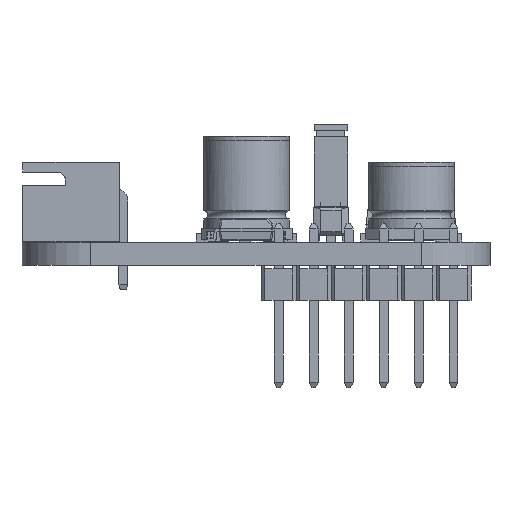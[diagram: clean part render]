
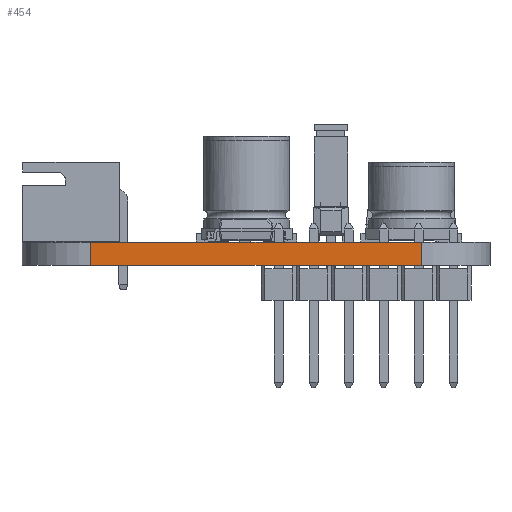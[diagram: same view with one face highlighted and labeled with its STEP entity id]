
A CAD part, front view. The second image highlights one B-rep face of the part: STEP entity #454.
In plain terms, the highlighted planar face has unit normal (0, -1, 0).
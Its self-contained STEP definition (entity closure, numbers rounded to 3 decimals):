
#427 = VERTEX_POINT('',#428);
#428 = CARTESIAN_POINT('',(49.,20.,1.691));
#435 = EDGE_CURVE('',#436,#427,#438,.T.);
#436 = VERTEX_POINT('',#437);
#437 = CARTESIAN_POINT('',(49.,20.,0.));
#438 = LINE('',#439,#440);
#439 = CARTESIAN_POINT('',(49.,20.,0.));
#440 = VECTOR('',#441,1.);
#441 = DIRECTION('',(0.,0.,1.));
#454 = ADVANCED_FACE('',(#455),#480,.T.);
#455 = FACE_BOUND('',#456,.T.);
#456 = EDGE_LOOP('',(#457,#458,#466,#474));
#457 = ORIENTED_EDGE('',*,*,#435,.T.);
#458 = ORIENTED_EDGE('',*,*,#459,.T.);
#459 = EDGE_CURVE('',#427,#460,#462,.T.);
#460 = VERTEX_POINT('',#461);
#461 = CARTESIAN_POINT('',(25.,20.,1.691));
#462 = LINE('',#463,#464);
#463 = CARTESIAN_POINT('',(49.,20.,1.691));
#464 = VECTOR('',#465,1.);
#465 = DIRECTION('',(-1.,0.,0.));
#466 = ORIENTED_EDGE('',*,*,#467,.F.);
#467 = EDGE_CURVE('',#468,#460,#470,.T.);
#468 = VERTEX_POINT('',#469);
#469 = CARTESIAN_POINT('',(25.,20.,0.));
#470 = LINE('',#471,#472);
#471 = CARTESIAN_POINT('',(25.,20.,0.));
#472 = VECTOR('',#473,1.);
#473 = DIRECTION('',(0.,0.,1.));
#474 = ORIENTED_EDGE('',*,*,#475,.F.);
#475 = EDGE_CURVE('',#436,#468,#476,.T.);
#476 = LINE('',#477,#478);
#477 = CARTESIAN_POINT('',(49.,20.,0.));
#478 = VECTOR('',#479,1.);
#479 = DIRECTION('',(-1.,0.,0.));
#480 = PLANE('',#481);
#481 = AXIS2_PLACEMENT_3D('',#482,#483,#484);
#482 = CARTESIAN_POINT('',(49.,20.,0.));
#483 = DIRECTION('',(0.,-1.,0.));
#484 = DIRECTION('',(-1.,0.,0.));
